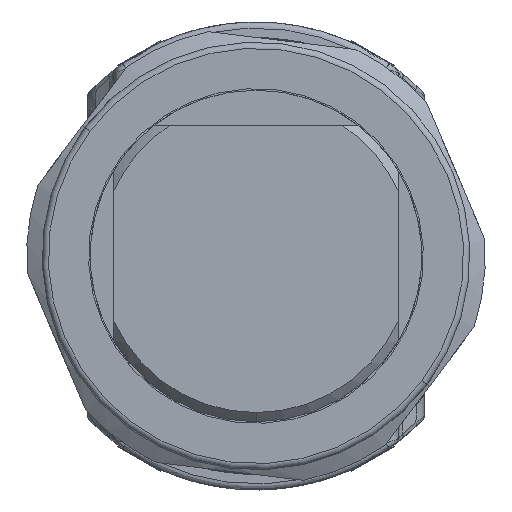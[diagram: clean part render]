
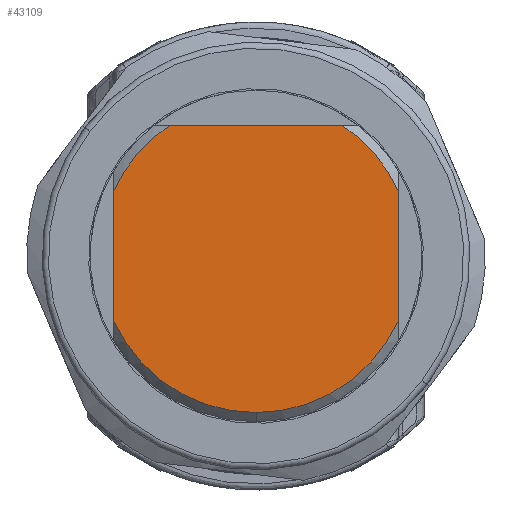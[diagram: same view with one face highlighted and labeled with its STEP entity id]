
A CAD part, front view. The second image highlights one B-rep face of the part: STEP entity #43109.
In plain terms, the highlighted planar face has unit normal (0, -1, 0).
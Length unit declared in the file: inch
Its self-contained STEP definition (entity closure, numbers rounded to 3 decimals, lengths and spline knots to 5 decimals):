
#1053 = LINE ( 'NONE', #17839, #46614 ) ;
#2422 = CARTESIAN_POINT ( 'NONE',  ( 0., -2.00787, 0. ) ) ;
#6568 = ORIENTED_EDGE ( 'NONE', *, *, #42893, .T. ) ;
#8904 = CARTESIAN_POINT ( 'NONE',  ( 0., -2.00787, 0. ) ) ;
#9390 = VERTEX_POINT ( 'NONE', #43547 ) ;
#10016 = ORIENTED_EDGE ( 'NONE', *, *, #19880, .T. ) ;
#10503 = EDGE_CURVE ( 'NONE', #38532, #29257, #1053, .T. ) ;
#11383 = DIRECTION ( 'NONE',  ( 0., 0., 1. ) ) ;
#11638 = DIRECTION ( 'NONE',  ( 0., 0., 1. ) ) ;
#11953 = VERTEX_POINT ( 'NONE', #49102 ) ;
#13451 = DIRECTION ( 'NONE',  ( 1., 0., 0. ) ) ;
#14281 = DIRECTION ( 'NONE',  ( 0., -1., 0. ) ) ;
#14990 = ORIENTED_EDGE ( 'NONE', *, *, #26441, .F. ) ;
#16126 = CIRCLE ( 'NONE', #51330, 0.99409 ) ;
#16364 = DIRECTION ( 'NONE',  ( 0., -1., 0. ) ) ;
#17442 = DIRECTION ( 'NONE',  ( 0., 0., 1. ) ) ;
#17839 = CARTESIAN_POINT ( 'NONE',  ( 0.90551, -2.00787, -0.68898 ) ) ;
#18829 = ORIENTED_EDGE ( 'NONE', *, *, #51596, .T. ) ;
#19486 = EDGE_LOOP ( 'NONE', ( #48012, #33174, #14990, #10016, #53453, #6568, #18829 ) ) ;
#19784 = VECTOR ( 'NONE', #11638, 39.37008 ) ;
#19880 = EDGE_CURVE ( 'NONE', #23351, #11953, #53121, .T. ) ;
#19898 = EDGE_CURVE ( 'NONE', #29257, #9390, #16126, .T. ) ;
#20013 = CARTESIAN_POINT ( 'NONE',  ( 0.90551, -2.00787, -0.41021 ) ) ;
#20402 = CARTESIAN_POINT ( 'NONE',  ( -0.90551, -2.00787, -0.41021 ) ) ;
#20409 = AXIS2_PLACEMENT_3D ( 'NONE', #48868, #36168, #11383 ) ;
#22283 = AXIS2_PLACEMENT_3D ( 'NONE', #23622, #39886, #35199 ) ;
#22415 = EDGE_CURVE ( 'NONE', #51564, #11953, #32555, .T. ) ;
#23131 = CIRCLE ( 'NONE', #51294, 0.99409 ) ;
#23351 = VERTEX_POINT ( 'NONE', #45013 ) ;
#23622 = CARTESIAN_POINT ( 'NONE',  ( 0., -2.00787, 0. ) ) ;
#23802 = CARTESIAN_POINT ( 'NONE',  ( 0.90551, -2.00787, 0.41021 ) ) ;
#24283 = DIRECTION ( 'NONE',  ( 0., 0., 1. ) ) ;
#24303 = PLANE ( 'NONE',  #20409 ) ;
#26377 = DIRECTION ( 'NONE',  ( 0., 0., 1. ) ) ;
#26441 = EDGE_CURVE ( 'NONE', #23351, #9390, #51734, .T. ) ;
#26469 = CARTESIAN_POINT ( 'NONE',  ( 0., -2.00787, -0.99409 ) ) ;
#29257 = VERTEX_POINT ( 'NONE', #23802 ) ;
#31056 = DIRECTION ( 'NONE',  ( 0., 0., 1. ) ) ;
#32020 = FACE_OUTER_BOUND ( 'NONE', #19486, .T. ) ;
#32555 = LINE ( 'NONE', #44454, #19784 ) ;
#33174 = ORIENTED_EDGE ( 'NONE', *, *, #19898, .T. ) ;
#33489 = AXIS2_PLACEMENT_3D ( 'NONE', #49641, #41635, #24283 ) ;
#33784 = VECTOR ( 'NONE', #13451, 39.37008 ) ;
#34396 = CIRCLE ( 'NONE', #33489, 0.99409 ) ;
#35199 = DIRECTION ( 'NONE',  ( 0., 0., 1. ) ) ;
#36168 = DIRECTION ( 'NONE',  ( 0., -1., 0. ) ) ;
#37519 = VERTEX_POINT ( 'NONE', #26469 ) ;
#38532 = VERTEX_POINT ( 'NONE', #20013 ) ;
#39886 = DIRECTION ( 'NONE',  ( 0., -1., 0. ) ) ;
#41635 = DIRECTION ( 'NONE',  ( 0., -1., 0. ) ) ;
#42893 = EDGE_CURVE ( 'NONE', #51564, #37519, #23131, .T. ) ;
#43109 = ADVANCED_FACE ( 'NONE', ( #32020 ), #24303, .T. ) ;
#43547 = CARTESIAN_POINT ( 'NONE',  ( 0.55197, -2.00787, 0.82677 ) ) ;
#44454 = CARTESIAN_POINT ( 'NONE',  ( -0.90551, -2.00787, -0.68898 ) ) ;
#45013 = CARTESIAN_POINT ( 'NONE',  ( -0.55197, -2.00787, 0.82677 ) ) ;
#46614 = VECTOR ( 'NONE', #26377, 39.37008 ) ;
#47887 = CARTESIAN_POINT ( 'NONE',  ( -0.98425, -2.00787, 0.82677 ) ) ;
#48012 = ORIENTED_EDGE ( 'NONE', *, *, #10503, .T. ) ;
#48868 = CARTESIAN_POINT ( 'NONE',  ( 0., -2.00787, 0. ) ) ;
#49102 = CARTESIAN_POINT ( 'NONE',  ( -0.90551, -2.00787, 0.41021 ) ) ;
#49641 = CARTESIAN_POINT ( 'NONE',  ( 0., -2.00787, 0. ) ) ;
#51294 = AXIS2_PLACEMENT_3D ( 'NONE', #8904, #16364, #17442 ) ;
#51330 = AXIS2_PLACEMENT_3D ( 'NONE', #2422, #14281, #31056 ) ;
#51564 = VERTEX_POINT ( 'NONE', #20402 ) ;
#51596 = EDGE_CURVE ( 'NONE', #37519, #38532, #34396, .T. ) ;
#51734 = LINE ( 'NONE', #47887, #33784 ) ;
#53121 = CIRCLE ( 'NONE', #22283, 0.99409 ) ;
#53453 = ORIENTED_EDGE ( 'NONE', *, *, #22415, .F. ) ;
